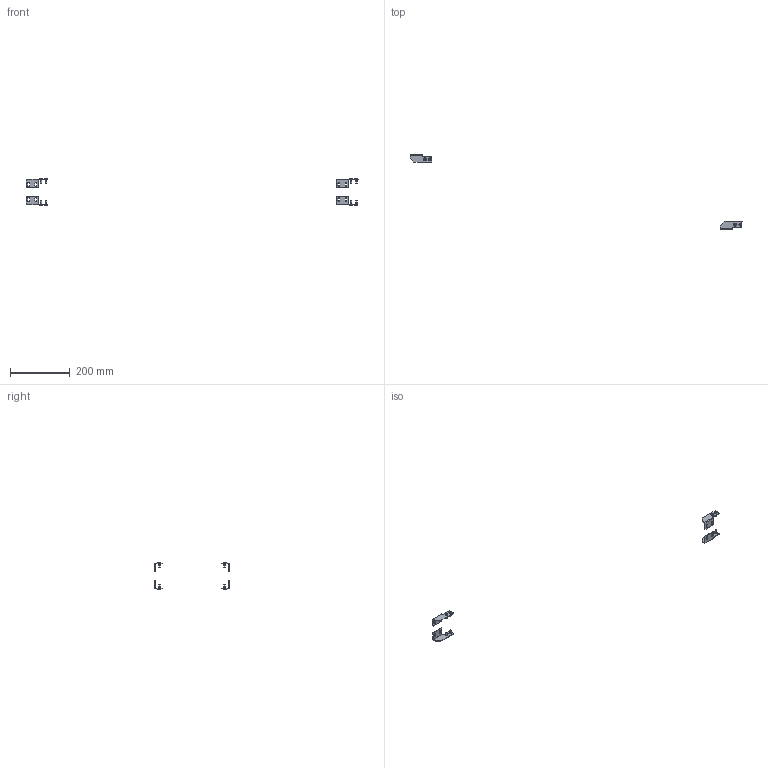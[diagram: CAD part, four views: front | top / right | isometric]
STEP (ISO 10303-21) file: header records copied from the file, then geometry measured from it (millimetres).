
FILE_DESCRIPTION (( 'STEP AP203' ), '1' );
FILE_NAME ('900.060.100.200.STEP', '2018-03-09T13:00:30', ( '' ), ( '' ), 'SwSTEP 2.0', 'SolidWorks 2016', '' );
FILE_SCHEMA (( 'CONFIG_CONTROL_DESIGN' ));
Length unit declared in the file: millimetre
Products named in the file (6): 900.060.100.200; SR435-4000-005; SR435-4000-002; SR435-4000-003; SR435MI060100-A435M060K1-2000; SR435-4000-004
Assembly tree (5 placements, depth 3):
  900.060.100.200
    SR435MI060100-A435M060K1-2000
      SR435-4000-002
      SR435-4000-003
      SR435-4000-004
      SR435-4000-005
Bounding box: 1107.5 x 249 x 90 mm (x, y, z)
Volume: 21633.7 mm3; surface area: 25561.9 mm2
Topology: 4 solids, 4 shells, 188 faces, 476 edges, 316 vertices
Faces by surface type: cylinder 100, plane 76, sphere 10, bspline 2
Entity records: 6474 total; most frequent: DIRECTION 1090, CARTESIAN_POINT 1019, ORIENTED_EDGE 952, EDGE_CURVE 476, AXIS2_PLACEMENT_3D 419, VERTEX_POINT 316, VECTOR 252, LINE 252
